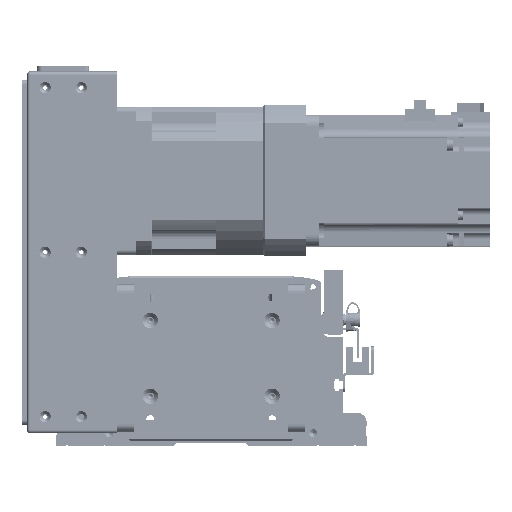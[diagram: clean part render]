
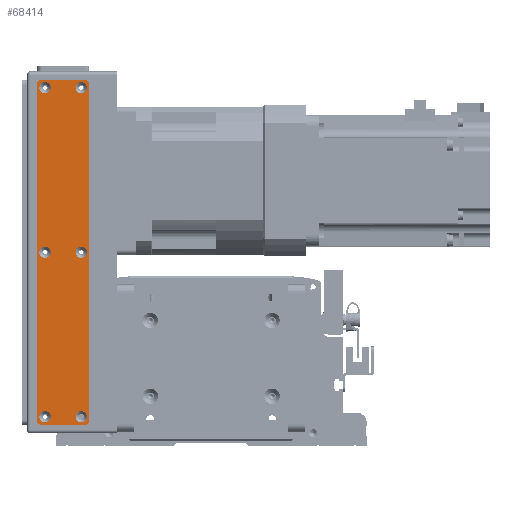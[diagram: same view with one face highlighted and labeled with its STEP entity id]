
A CAD part, front view. The second image highlights one B-rep face of the part: STEP entity #68414.
In plain terms, the highlighted planar face has unit normal (0, -1, 0).
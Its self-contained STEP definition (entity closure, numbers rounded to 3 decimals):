
#1880=FACE_BOUND('',#14290,.T.);
#1881=FACE_BOUND('',#14291,.T.);
#1882=FACE_BOUND('',#14292,.T.);
#1883=FACE_BOUND('',#14293,.T.);
#1884=FACE_BOUND('',#14294,.T.);
#1885=FACE_BOUND('',#14295,.T.);
#5179=PLANE('',#75728);
#9917=FACE_OUTER_BOUND('',#14289,.T.);
#14289=EDGE_LOOP('',(#64462,#64463,#64464,#64465,#64466,#64467,#64468,#64469));
#14290=EDGE_LOOP('',(#64470));
#14291=EDGE_LOOP('',(#64471));
#14292=EDGE_LOOP('',(#64472));
#14293=EDGE_LOOP('',(#64473));
#14294=EDGE_LOOP('',(#64474));
#14295=EDGE_LOOP('',(#64475));
#20602=LINE('',#117811,#26908);
#20603=LINE('',#117815,#26909);
#20604=LINE('',#117819,#26910);
#20605=LINE('',#117822,#26911);
#26908=VECTOR('',#95321,10.);
#26909=VECTOR('',#95324,10.);
#26910=VECTOR('',#95327,10.);
#26911=VECTOR('',#95330,10.);
#29566=CIRCLE('',#75696,3.45);
#29569=CIRCLE('',#75701,3.45);
#29572=CIRCLE('',#75706,3.45);
#29575=CIRCLE('',#75711,3.45);
#29578=CIRCLE('',#75716,3.45);
#29581=CIRCLE('',#75721,3.45);
#29584=CIRCLE('',#75726,3.);
#29586=CIRCLE('',#75729,3.);
#29587=CIRCLE('',#75730,3.);
#29588=CIRCLE('',#75731,3.);
#35867=VERTEX_POINT('',#117741);
#35870=VERTEX_POINT('',#117751);
#35873=VERTEX_POINT('',#117761);
#35876=VERTEX_POINT('',#117771);
#35879=VERTEX_POINT('',#117781);
#35882=VERTEX_POINT('',#117791);
#35885=VERTEX_POINT('',#117801);
#35886=VERTEX_POINT('',#117802);
#35889=VERTEX_POINT('',#117810);
#35890=VERTEX_POINT('',#117812);
#35891=VERTEX_POINT('',#117814);
#35892=VERTEX_POINT('',#117816);
#35893=VERTEX_POINT('',#117818);
#35894=VERTEX_POINT('',#117820);
#45386=EDGE_CURVE('',#35867,#35867,#29566,.T.);
#45391=EDGE_CURVE('',#35870,#35870,#29569,.T.);
#45396=EDGE_CURVE('',#35873,#35873,#29572,.T.);
#45401=EDGE_CURVE('',#35876,#35876,#29575,.T.);
#45406=EDGE_CURVE('',#35879,#35879,#29578,.T.);
#45411=EDGE_CURVE('',#35882,#35882,#29581,.T.);
#45416=EDGE_CURVE('',#35885,#35886,#29584,.T.);
#45420=EDGE_CURVE('',#35885,#35889,#20602,.T.);
#45421=EDGE_CURVE('',#35890,#35889,#29586,.T.);
#45422=EDGE_CURVE('',#35890,#35891,#20603,.T.);
#45423=EDGE_CURVE('',#35892,#35891,#29587,.T.);
#45424=EDGE_CURVE('',#35892,#35893,#20604,.T.);
#45425=EDGE_CURVE('',#35894,#35893,#29588,.T.);
#45426=EDGE_CURVE('',#35894,#35886,#20605,.T.);
#64462=ORIENTED_EDGE('',*,*,#45416,.F.);
#64463=ORIENTED_EDGE('',*,*,#45420,.T.);
#64464=ORIENTED_EDGE('',*,*,#45421,.F.);
#64465=ORIENTED_EDGE('',*,*,#45422,.T.);
#64466=ORIENTED_EDGE('',*,*,#45423,.F.);
#64467=ORIENTED_EDGE('',*,*,#45424,.T.);
#64468=ORIENTED_EDGE('',*,*,#45425,.F.);
#64469=ORIENTED_EDGE('',*,*,#45426,.T.);
#64470=ORIENTED_EDGE('',*,*,#45386,.T.);
#64471=ORIENTED_EDGE('',*,*,#45391,.T.);
#64472=ORIENTED_EDGE('',*,*,#45396,.T.);
#64473=ORIENTED_EDGE('',*,*,#45401,.T.);
#64474=ORIENTED_EDGE('',*,*,#45406,.T.);
#64475=ORIENTED_EDGE('',*,*,#45411,.T.);
#68414=ADVANCED_FACE('',(#9917,#1880,#1881,#1882,#1883,#1884,#1885),#5179,
 .T.);
#75696=AXIS2_PLACEMENT_3D('',#117742,#95241,#95242);
#75701=AXIS2_PLACEMENT_3D('',#117752,#95253,#95254);
#75706=AXIS2_PLACEMENT_3D('',#117762,#95265,#95266);
#75711=AXIS2_PLACEMENT_3D('',#117772,#95277,#95278);
#75716=AXIS2_PLACEMENT_3D('',#117782,#95289,#95290);
#75721=AXIS2_PLACEMENT_3D('',#117792,#95301,#95302);
#75726=AXIS2_PLACEMENT_3D('',#117803,#95313,#95314);
#75728=AXIS2_PLACEMENT_3D('',#117809,#95319,#95320);
#75729=AXIS2_PLACEMENT_3D('',#117813,#95322,#95323);
#75730=AXIS2_PLACEMENT_3D('',#117817,#95325,#95326);
#75731=AXIS2_PLACEMENT_3D('',#117821,#95328,#95329);
#95241=DIRECTION('center_axis',(0.,1.,0.));
#95242=DIRECTION('ref_axis',(1.,0.,0.));
#95253=DIRECTION('center_axis',(0.,1.,0.));
#95254=DIRECTION('ref_axis',(1.,0.,0.));
#95265=DIRECTION('center_axis',(0.,1.,0.));
#95266=DIRECTION('ref_axis',(1.,0.,0.));
#95277=DIRECTION('center_axis',(0.,1.,0.));
#95278=DIRECTION('ref_axis',(1.,0.,0.));
#95289=DIRECTION('center_axis',(0.,1.,0.));
#95290=DIRECTION('ref_axis',(1.,0.,0.));
#95301=DIRECTION('center_axis',(0.,1.,0.));
#95302=DIRECTION('ref_axis',(1.,0.,0.));
#95313=DIRECTION('center_axis',(0.,1.,0.));
#95314=DIRECTION('ref_axis',(-0.707,0.,0.707));
#95319=DIRECTION('center_axis',(0.,-1.,0.));
#95320=DIRECTION('ref_axis',(0.,0.,-1.));
#95321=DIRECTION('',(0.,0.,-1.));
#95322=DIRECTION('center_axis',(0.,1.,0.));
#95323=DIRECTION('ref_axis',(-0.707,0.,-0.707));
#95324=DIRECTION('',(1.,0.,0.));
#95325=DIRECTION('center_axis',(0.,1.,0.));
#95326=DIRECTION('ref_axis',(0.707,0.,-0.707));
#95327=DIRECTION('',(0.,0.,1.));
#95328=DIRECTION('center_axis',(0.,1.,0.));
#95329=DIRECTION('ref_axis',(0.707,0.,0.707));
#95330=DIRECTION('',(-1.,0.,0.));
#117741=CARTESIAN_POINT('',(96.55,-1.5,11.));
#117742=CARTESIAN_POINT('Origin',(100.,-1.5,11.));
#117751=CARTESIAN_POINT('',(-103.45,-1.5,-11.));
#117752=CARTESIAN_POINT('Origin',(-100.,-1.5,-11.));
#117761=CARTESIAN_POINT('',(-3.45,-1.5,11.));
#117762=CARTESIAN_POINT('Origin',(0.,-1.5,11.));
#117771=CARTESIAN_POINT('',(-3.45,-1.5,-11.));
#117772=CARTESIAN_POINT('Origin',(0.,-1.5,-11.));
#117781=CARTESIAN_POINT('',(-103.45,-1.5,11.));
#117782=CARTESIAN_POINT('Origin',(-100.,-1.5,11.));
#117791=CARTESIAN_POINT('',(96.55,-1.5,-11.));
#117792=CARTESIAN_POINT('Origin',(100.,-1.5,-11.));
#117801=CARTESIAN_POINT('',(-105.,-1.5,13.));
#117802=CARTESIAN_POINT('',(-102.,-1.5,16.));
#117803=CARTESIAN_POINT('Origin',(-102.,-1.5,13.));
#117809=CARTESIAN_POINT('Origin',(0.,-1.5,0.));
#117810=CARTESIAN_POINT('',(-105.,-1.5,-13.));
#117811=CARTESIAN_POINT('',(-105.,-1.5,16.));
#117812=CARTESIAN_POINT('',(-102.,-1.5,-16.));
#117813=CARTESIAN_POINT('Origin',(-102.,-1.5,-13.));
#117814=CARTESIAN_POINT('',(102.,-1.5,-16.));
#117815=CARTESIAN_POINT('',(-105.,-1.5,-16.));
#117816=CARTESIAN_POINT('',(105.,-1.5,-13.));
#117817=CARTESIAN_POINT('Origin',(102.,-1.5,-13.));
#117818=CARTESIAN_POINT('',(105.,-1.5,13.));
#117819=CARTESIAN_POINT('',(105.,-1.5,-16.));
#117820=CARTESIAN_POINT('',(102.,-1.5,16.));
#117821=CARTESIAN_POINT('Origin',(102.,-1.5,13.));
#117822=CARTESIAN_POINT('',(105.,-1.5,16.));
